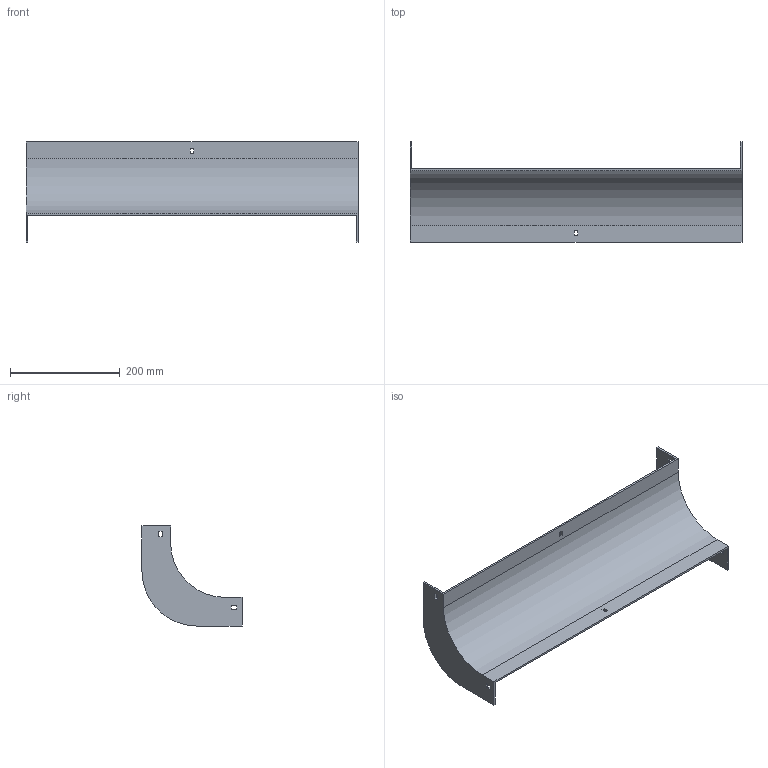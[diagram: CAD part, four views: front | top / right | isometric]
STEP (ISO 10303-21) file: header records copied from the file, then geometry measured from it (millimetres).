
FILE_DESCRIPTION (( 'STEP AP214' ), '1' );
FILE_NAME ('33F1B600.step', '2025-02-21T12:52:38', ( '' ), ( '' ), 'SwSTEP 2.0', 'SolidWorks 2023', '' );
FILE_SCHEMA (( 'AUTOMOTIVE_DESIGN' ));
Length unit declared in the file: millimetre
Products named in the file (1): 33F1B600
Bounding box: 604 x 182 x 182 mm (x, y, z)
Volume: 571510.2 mm3; surface area: 334405.6 mm2
Topology: 1 solids, 1 shells, 42 faces, 120 edges, 80 vertices
Faces by surface type: plane 38, cylinder 4
Entity records: 1399 total; most frequent: CARTESIAN_POINT 243, ORIENTED_EDGE 240, DIRECTION 214, EDGE_CURVE 120, LINE 112, VECTOR 112, VERTEX_POINT 80, EDGE_LOOP 54
